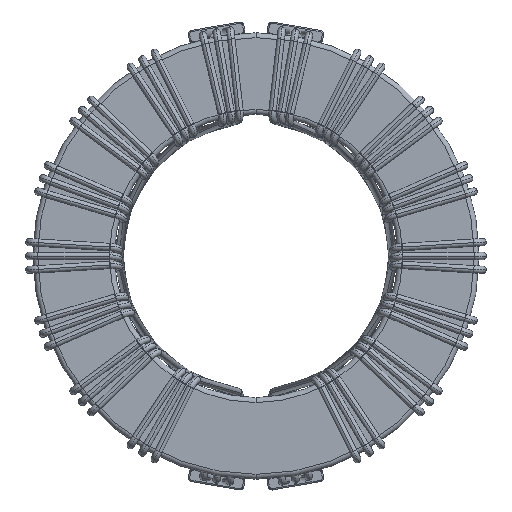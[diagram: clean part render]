
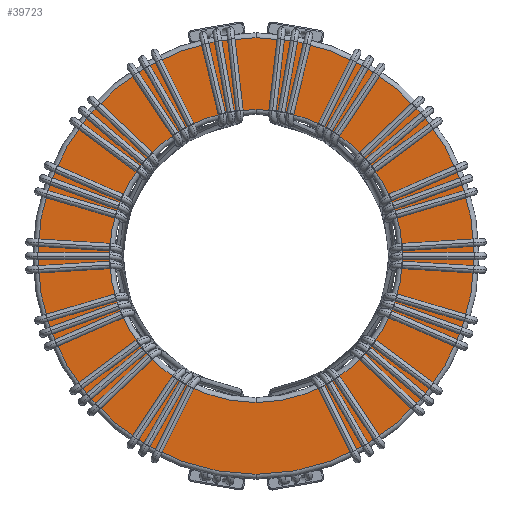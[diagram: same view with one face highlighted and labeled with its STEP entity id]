
A CAD part, front view. The second image highlights one B-rep face of the part: STEP entity #39723.
In plain terms, the highlighted planar face has unit normal (0, -1, 0).
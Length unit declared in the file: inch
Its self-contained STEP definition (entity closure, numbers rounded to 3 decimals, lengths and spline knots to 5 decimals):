
#826 = CIRCLE ( 'NONE', #6913, 1.74457 ) ;
#1296 = CARTESIAN_POINT ( 'NONE',  ( 0., -0.59569, 0. ) ) ;
#2028 = CARTESIAN_POINT ( 'NONE',  ( 0., -0.59569, 1.17126 ) ) ;
#2535 = ORIENTED_EDGE ( 'NONE', *, *, #21932, .T. ) ;
#3931 = DIRECTION ( 'NONE',  ( 0., 0., 1. ) ) ;
#4370 = VERTEX_POINT ( 'NONE', #39940 ) ;
#4409 = DIRECTION ( 'NONE',  ( 0., 0., 1. ) ) ;
#4471 = AXIS2_PLACEMENT_3D ( 'NONE', #4743, #27679, #18591 ) ;
#4743 = CARTESIAN_POINT ( 'NONE',  ( 0., -0.59569, 0. ) ) ;
#5256 = ORIENTED_EDGE ( 'NONE', *, *, #26560, .T. ) ;
#6913 = AXIS2_PLACEMENT_3D ( 'NONE', #39096, #28703, #4409 ) ;
#7851 = VERTEX_POINT ( 'NONE', #21187 ) ;
#8326 = EDGE_LOOP ( 'NONE', ( #28918, #2535 ) ) ;
#10535 = ORIENTED_EDGE ( 'NONE', *, *, #23309, .T. ) ;
#11768 = CARTESIAN_POINT ( 'NONE',  ( 0., -0.59569, 0. ) ) ;
#13982 = EDGE_LOOP ( 'NONE', ( #10535, #5256 ) ) ;
#15184 = DIRECTION ( 'NONE',  ( 0., 1., 0. ) ) ;
#17130 = CARTESIAN_POINT ( 'NONE',  ( 0., -0.59569, 0. ) ) ;
#18263 = DIRECTION ( 'NONE',  ( 0., -1., 0. ) ) ;
#18591 = DIRECTION ( 'NONE',  ( 0., 0., 1. ) ) ;
#18907 = EDGE_CURVE ( 'NONE', #24700, #37555, #19095, .T. ) ;
#19095 = CIRCLE ( 'NONE', #4471, 1.17126 ) ;
#19723 = DIRECTION ( 'NONE',  ( 0., 0., 1. ) ) ;
#21187 = CARTESIAN_POINT ( 'NONE',  ( 0., -0.59569, -1.74457 ) ) ;
#21932 = EDGE_CURVE ( 'NONE', #37555, #24700, #32618, .T. ) ;
#22329 = DIRECTION ( 'NONE',  ( 0., 1., 0. ) ) ;
#22742 = AXIS2_PLACEMENT_3D ( 'NONE', #17130, #22329, #19723 ) ;
#23309 = EDGE_CURVE ( 'NONE', #4370, #7851, #33910, .T. ) ;
#24700 = VERTEX_POINT ( 'NONE', #2028 ) ;
#25564 = FACE_OUTER_BOUND ( 'NONE', #13982, .T. ) ;
#26083 = DIRECTION ( 'NONE',  ( 0., 0., 1. ) ) ;
#26560 = EDGE_CURVE ( 'NONE', #7851, #4370, #826, .T. ) ;
#27679 = DIRECTION ( 'NONE',  ( 0., 1., 0. ) ) ;
#28703 = DIRECTION ( 'NONE',  ( 0., -1., 0. ) ) ;
#28918 = ORIENTED_EDGE ( 'NONE', *, *, #18907, .T. ) ;
#29077 = CARTESIAN_POINT ( 'NONE',  ( 0., -0.59569, -1.17126 ) ) ;
#30882 = AXIS2_PLACEMENT_3D ( 'NONE', #11768, #18263, #26083 ) ;
#32101 = AXIS2_PLACEMENT_3D ( 'NONE', #1296, #15184, #3931 ) ;
#32618 = CIRCLE ( 'NONE', #32101, 1.17126 ) ;
#33910 = CIRCLE ( 'NONE', #30882, 1.74457 ) ;
#34738 = PLANE ( 'NONE',  #22742 ) ;
#37555 = VERTEX_POINT ( 'NONE', #29077 ) ;
#37957 = FACE_BOUND ( 'NONE', #8326, .T. ) ;
#39096 = CARTESIAN_POINT ( 'NONE',  ( 0., -0.59569, 0. ) ) ;
#39723 = ADVANCED_FACE ( 'NONE', ( #37957, #25564 ), #34738, .F. ) ;
#39940 = CARTESIAN_POINT ( 'NONE',  ( 0., -0.59569, 1.74457 ) ) ;
